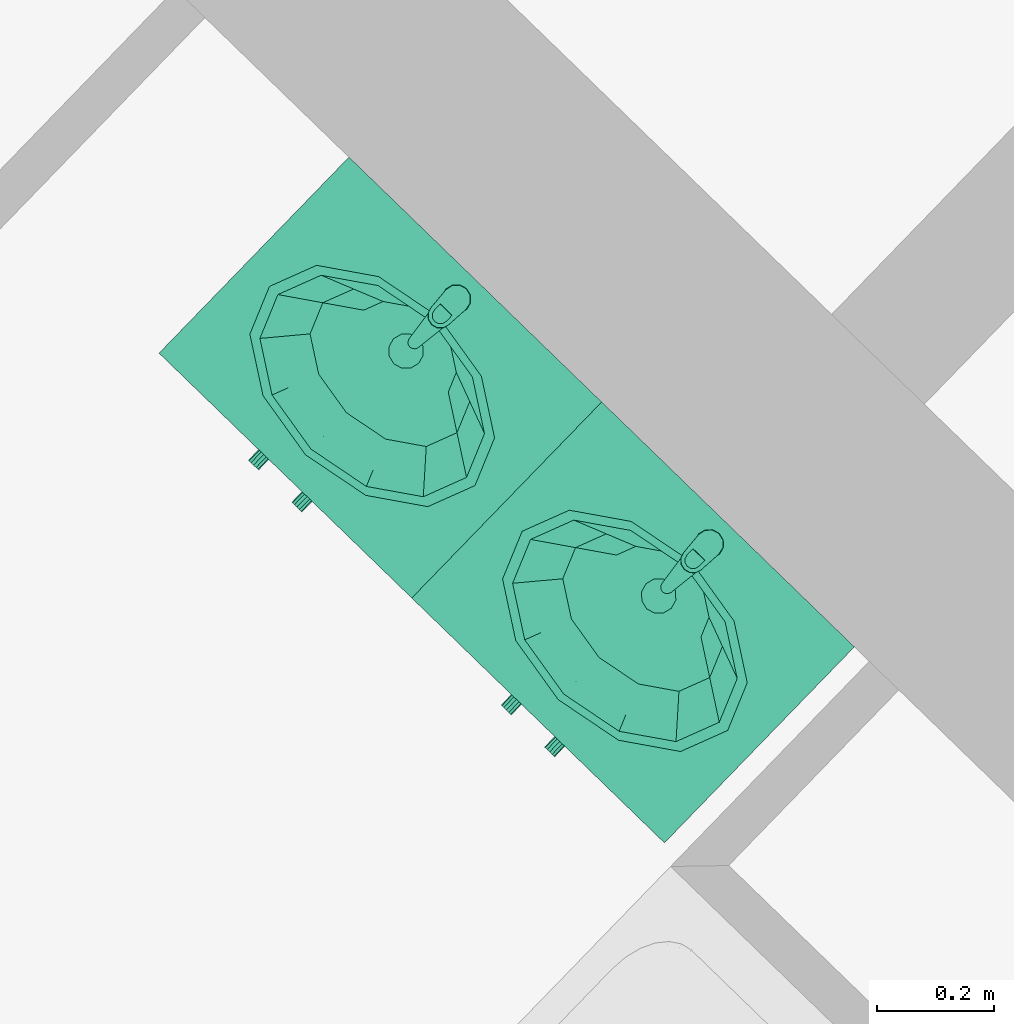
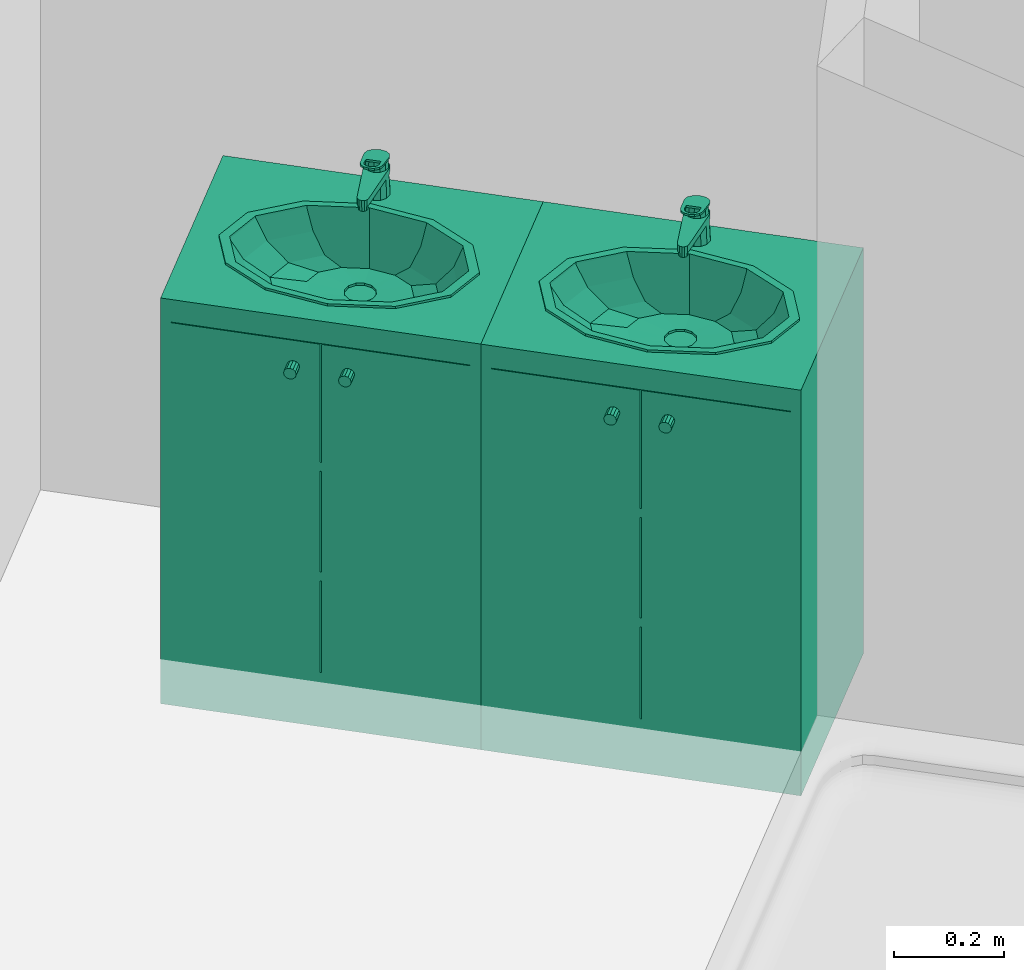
# One storey, part 135 of 195: 2 distribution elements.
"""IFC2X3 building model written with IfcOpenShell, lengths in metres."""

from ifc_helpers import new_model, entity, si_unit, converted_unit, derived_unit, money_unit, direction, frame, origin_with_axes, place, context, subcontext, project, spatial, open_shell, faceted_brep, surface_model, source, transform, mapped, type_object, element, save


model = new_model("IFC2X3")

# Units and contexts
model_context = context("Model", 3, precision=1e-05, world=origin_with_axes(), true_north=direction((0.0, 1.0)))
body_context = subcontext(model_context, "Body", "Model", "MODEL_VIEW")
ifc_project = project(units=[si_unit("LENGTHUNIT", "METRE"), si_unit("AREAUNIT", "SQUARE_METRE"), si_unit("VOLUMEUNIT", "CUBIC_METRE"), converted_unit("PLANEANGLEUNIT", "DEGREE", entity("IfcPlaneAngleMeasure", 0.0174532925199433), si_unit("PLANEANGLEUNIT", "RADIAN"), dimensions=[0, 0, 0, 0, 0, 0, 0]), money_unit("CHF"), converted_unit("TIMEUNIT", "Year", entity("IfcTimeMeasure", 31557600.0), si_unit("TIMEUNIT", "SECOND"), dimensions=[0, 0, 1, 0, 0, 0, 0]), si_unit("MASSUNIT", "GRAM", prefix="KILO"), si_unit("THERMODYNAMICTEMPERATUREUNIT", "DEGREE_CELSIUS"), si_unit("LUMINOUSINTENSITYUNIT", "LUMEN"), si_unit("ENERGYUNIT", "JOULE", prefix="MEGA"), derived_unit("THERMALCONDUCTANCEUNIT", [(si_unit("POWERUNIT", "WATT"), 1), (si_unit("LENGTHUNIT", "METRE"), -1), (si_unit("THERMODYNAMICTEMPERATUREUNIT", "KELVIN"), -1)]), derived_unit("SPECIFICHEATCAPACITYUNIT", [(si_unit("ENERGYUNIT", "JOULE"), 1), (si_unit("MASSUNIT", "GRAM", prefix="KILO"), -1), (si_unit("THERMODYNAMICTEMPERATUREUNIT", "KELVIN"), -1)]), derived_unit("MASSDENSITYUNIT", [(si_unit("MASSUNIT", "GRAM", prefix="KILO"), 1), (si_unit("VOLUMEUNIT", "CUBIC_METRE"), -1)])], contexts=[model_context])

# Site, building, storey
site_placement = place(None, origin_with_axes())
site = spatial("IfcSite", under=ifc_project, at=site_placement, Name="Site", CompositionType="ELEMENT")
building_placement = place(site_placement, origin_with_axes())
building = spatial("IfcBuilding", under=site, at=building_placement, Name="Bâtiment", CompositionType="ELEMENT")
storey_placement = place(building_placement, origin_with_axes())
storey = spatial("IfcBuildingStorey", under=building, at=storey_placement, Name="rdc", CompositionType="ELEMENT", Elevation=0.0)

# Distribution elements
distribution_element_type = type_object("IfcDistributionElementType", Name="Lavabo sur meuble 27")
shared_shape = source(origin_with_axes(), body_context, "Body", "SurfaceModel", [
    faceted_brep([(0.0, 0.0, 0.0), (0.6, 0.0, 0.0), (0.6, 0.0, 0.1), (0.0, 0.0, 0.1), (0.0, 0.4653441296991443, 0.0), (0.6, 0.4653441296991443, 0.0), (0.6, 0.4653441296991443, 0.1), (0.0, 0.4653441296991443, 0.1)], [[[0, 1, 2, 3]], [[0, 4, 5, 1]], [[1, 5, 6, 2]], [[3, 2, 6, 7]], [[4, 0, 3, 7]], [[5, 4, 7, 6]]]),
    faceted_brep([(0.0, 0.0, 0.1), (0.02, 0.0, 0.1), (0.02, 0.0, 0.12), (0.0, 0.0, 0.12), (0.0, 0.4653441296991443, 0.1), (0.02, 0.4653441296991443, 0.1), (0.58, 0.4653441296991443, 0.1), (0.6, 0.4653441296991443, 0.1), (0.6, 0.0, 0.1), (0.58, 0.0, 0.1), (0.58, 0.0, 0.12), (0.6, 0.0, 0.12), (0.6, 0.4653441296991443, 0.12), (0.58, 0.4653441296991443, 0.12), (0.02, 0.4653441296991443, 0.12), (0.0, 0.4653441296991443, 0.12)], [[[0, 1, 2, 3]], [[0, 4, 5, 6, 7, 8, 9, 1]], [[1, 9, 10, 2]], [[3, 2, 10, 11, 12, 13, 14, 15]], [[4, 0, 3, 15]], [[5, 4, 15, 14]], [[6, 5, 14, 13]], [[7, 6, 13, 12]], [[8, 7, 12, 11]], [[9, 8, 11, 10]]]),
    faceted_brep([(0.0, 0.0, 0.12), (0.02, 0.0, 0.12), (0.02, 0.0, 0.85), (0.0, 0.0, 0.85), (0.0, 0.4653441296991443, 0.12), (0.6, 0.4653441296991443, 0.12), (0.6, 0.0, 0.12), (0.58, 0.0, 0.12), (0.58, 0.4453441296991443, 0.12), (0.02, 0.4453441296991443, 0.12), (0.02, 0.4453441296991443, 0.85), (0.58, 0.4453441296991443, 0.85), (0.58, 0.0, 0.85), (0.6, 0.0, 0.85), (0.6, 0.4653441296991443, 0.85), (0.0, 0.4653441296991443, 0.85)], [[[0, 1, 2, 3]], [[0, 4, 5, 6, 7, 8, 9, 1]], [[1, 9, 10, 2]], [[3, 2, 10, 11, 12, 13, 14, 15]], [[4, 0, 3, 15]], [[5, 4, 15, 14]], [[6, 5, 14, 13]], [[7, 6, 13, 12]], [[8, 7, 12, 11]], [[9, 8, 11, 10]]]),
    faceted_brep([(0.58, 0.0, 0.3233333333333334), (0.58, 0.4453441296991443, 0.3233333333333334), (0.58, 0.4453441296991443, 0.3433333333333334), (0.58, 0.0, 0.3433333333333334), (0.02, 0.0, 0.3233333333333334), (0.02, 0.4453441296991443, 0.3233333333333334), (0.02, 0.4453441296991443, 0.3433333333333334), (0.02, 0.0, 0.3433333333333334)], [[[0, 1, 2, 3]], [[0, 4, 5, 1]], [[1, 5, 6, 2]], [[3, 2, 6, 7]], [[4, 0, 3, 7]], [[5, 4, 7, 6]]]),
    faceted_brep([(0.58, 0.0, 0.5666666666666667), (0.58, 0.4453441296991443, 0.5666666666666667), (0.58, 0.4453441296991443, 0.5866666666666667), (0.58, 0.0, 0.5866666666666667), (0.02, 0.0, 0.5666666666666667), (0.02, 0.4453441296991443, 0.5666666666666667), (0.02, 0.4453441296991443, 0.5866666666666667), (0.02, 0.0, 0.5866666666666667)], [[[0, 1, 2, 3]], [[0, 4, 5, 1]], [[1, 5, 6, 2]], [[3, 2, 6, 7]], [[4, 0, 3, 7]], [[5, 4, 7, 6]]]),
    faceted_brep([(0.0, 0.4653441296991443, 0.85), (0.6, 0.4653441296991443, 0.85), (0.6, 0.0, 0.85), (0.0, 0.0, 0.85), (0.4124999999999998, 0.08276825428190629, 0.85), (0.4948557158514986, 0.137672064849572, 0.85), (0.525, 0.2126720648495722, 0.85), (0.4948557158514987, 0.2876720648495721, 0.85), (0.4125, 0.3425758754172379, 0.85), (0.3, 0.3626720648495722, 0.85), (0.1875000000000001, 0.342575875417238, 0.85), (0.1051442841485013, 0.2876720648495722, 0.85), (0.07499999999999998, 0.2126720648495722, 0.85), (0.1051442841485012, 0.1376720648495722, 0.85), (0.1874999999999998, 0.08276825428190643, 0.85), (0.3, 0.06267206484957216, 0.85), (0.0, 0.4653441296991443, 0.9), (0.6, 0.4653441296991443, 0.9), (0.6, 0.0, 0.9), (0.0, 0.0, 0.9), (0.4124999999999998, 0.08276825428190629, 0.9), (0.4948557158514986, 0.137672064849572, 0.9), (0.525, 0.2126720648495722, 0.9), (0.4948557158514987, 0.2876720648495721, 0.9), (0.4125, 0.3425758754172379, 0.9), (0.3, 0.3626720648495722, 0.9), (0.1875000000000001, 0.342575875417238, 0.9), (0.1051442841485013, 0.2876720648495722, 0.9), (0.07499999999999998, 0.2126720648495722, 0.9), (0.1051442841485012, 0.1376720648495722, 0.9), (0.1874999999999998, 0.08276825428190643, 0.9), (0.3, 0.06267206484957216, 0.9)], [[[0, 1, 2, 3], [4, 5, 6, 7, 8, 9, 10, 11, 12, 13, 14, 15]], [[0, 16, 17, 1]], [[1, 17, 18, 2]], [[2, 18, 19, 3]], [[3, 19, 16, 0]], [[20, 21, 5, 4]], [[21, 22, 6, 5]], [[22, 23, 7, 6]], [[23, 24, 8, 7]], [[24, 25, 9, 8]], [[25, 26, 10, 9]], [[26, 27, 11, 10]], [[27, 28, 12, 11]], [[28, 29, 13, 12]], [[29, 30, 14, 13]], [[30, 31, 15, 14]], [[31, 20, 4, 15]], [[18, 17, 16, 19], [24, 23, 22, 21, 20, 31, 30, 29, 28, 27, 26, 25]]]),
    faceted_brep([(0.544, 0.2126720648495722, 0.905), (0.544, 0.2126720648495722, 0.9), (0.511310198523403, 0.2943684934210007, 0.9), (0.511310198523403, 0.2943684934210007, 0.905), (0.5113101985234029, 0.1309756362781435, 0.905), (0.5113101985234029, 0.1309756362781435, 0.9), (0.4219999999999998, 0.07116969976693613, 0.9), (0.3, 0.04927920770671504, 0.9), (0.1779999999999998, 0.07116969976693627, 0.9), (0.08868980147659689, 0.1309756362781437, 0.9), (0.05599999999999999, 0.2126720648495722, 0.9), (0.088689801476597, 0.2943684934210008, 0.9), (0.178, 0.3541744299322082, 0.9), (0.3, 0.3760649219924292, 0.9), (0.422, 0.3541744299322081, 0.9), (0.524, 0.2126720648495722, 0.9), (0.4939896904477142, 0.2876720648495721, 0.9), (0.412, 0.3425758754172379, 0.9), (0.3, 0.3626720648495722, 0.9), (0.1880000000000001, 0.342575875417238, 0.9), (0.1060103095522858, 0.2876720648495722, 0.9), (0.07599999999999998, 0.2126720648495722, 0.9), (0.1060103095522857, 0.1376720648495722, 0.9), (0.1879999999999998, 0.08276825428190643, 0.9), (0.3, 0.06267206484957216, 0.9), (0.4119999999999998, 0.08276825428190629, 0.9), (0.4939896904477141, 0.137672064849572, 0.9), (0.422, 0.3541744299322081, 0.905), (0.3, 0.3760649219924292, 0.905), (0.178, 0.3541744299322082, 0.905), (0.088689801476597, 0.2943684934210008, 0.905), (0.05599999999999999, 0.2126720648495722, 0.905), (0.08868980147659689, 0.1309756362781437, 0.905), (0.1779999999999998, 0.07116969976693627, 0.905), (0.3, 0.04927920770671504, 0.905), (0.4219999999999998, 0.07116969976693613, 0.905), (0.524, 0.2126720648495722, 0.905), (0.4939896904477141, 0.137672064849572, 0.905), (0.4119999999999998, 0.08276825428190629, 0.905), (0.3, 0.06267206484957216, 0.905), (0.1879999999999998, 0.08276825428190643, 0.905), (0.1060103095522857, 0.1376720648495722, 0.905), (0.07599999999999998, 0.2126720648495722, 0.905), (0.1060103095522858, 0.2876720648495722, 0.905), (0.1880000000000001, 0.342575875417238, 0.905), (0.3, 0.3626720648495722, 0.905), (0.412, 0.3425758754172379, 0.905), (0.4939896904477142, 0.2876720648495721, 0.905)], [[[0, 1, 2, 3]], [[4, 5, 1, 0]], [[1, 5, 6, 7, 8, 9, 10, 11, 12, 13, 14, 2], [15, 16, 17, 18, 19, 20, 21, 22, 23, 24, 25, 26]], [[3, 2, 14, 27]], [[0, 3, 27, 28, 29, 30, 31, 32, 33, 34, 35, 4], [36, 37, 38, 39, 40, 41, 42, 43, 44, 45, 46, 47]], [[35, 6, 5, 4]], [[34, 7, 6, 35]], [[33, 8, 7, 34]], [[32, 9, 8, 33]], [[31, 10, 9, 32]], [[30, 11, 10, 31]], [[29, 12, 11, 30]], [[28, 13, 12, 29]], [[27, 14, 13, 28]], [[47, 16, 15, 36]], [[46, 17, 16, 47]], [[45, 18, 17, 46]], [[44, 19, 18, 45]], [[43, 20, 19, 44]], [[42, 21, 20, 43]], [[41, 22, 21, 42]], [[40, 23, 22, 41]], [[39, 24, 23, 40]], [[38, 25, 24, 39]], [[37, 26, 25, 38]], [[36, 15, 26, 37]]]),
    surface_model("IfcShellBasedSurfaceModel", [(0.3, 0.3626720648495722, 0.9), (0.3, 0.3626720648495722, 0.848), (0.4008, 0.3445854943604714, 0.848), (0.412, 0.342575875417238, 0.9), (0.1879999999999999, 0.3425758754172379, 0.9), (0.1991999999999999, 0.3445854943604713, 0.848), (0.4745907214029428, 0.2951720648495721, 0.848), (0.4939896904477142, 0.2876720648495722, 0.9), (0.1060103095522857, 0.2876720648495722, 0.9), (0.1254092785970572, 0.2951720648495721, 0.848), (0.5016, 0.2276720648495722, 0.848), (0.524, 0.2126720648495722, 0.9), (0.07599999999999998, 0.2126720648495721, 0.9), (0.09839999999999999, 0.2276720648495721, 0.848), (0.4745907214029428, 0.1601720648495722, 0.848), (0.4939896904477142, 0.1376720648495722, 0.9), (0.1060103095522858, 0.1376720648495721, 0.9), (0.1254092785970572, 0.1601720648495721, 0.848), (0.4008, 0.1107586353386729, 0.848), (0.412, 0.08276825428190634, 0.9), (0.1879999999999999, 0.08276825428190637, 0.9), (0.1992, 0.110758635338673, 0.848), (0.3, 0.09267206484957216, 0.848), (0.3, 0.06267206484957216, 0.9)], [open_shell([[[0, 1, 2, 3]], [[4, 5, 1, 0]], [[3, 2, 6, 7]], [[8, 9, 5, 4]], [[7, 6, 10, 11]], [[12, 13, 9, 8]], [[11, 10, 14, 15]], [[16, 17, 13, 12]], [[15, 14, 18, 19]], [[20, 21, 17, 16]], [[19, 18, 22, 23]], [[23, 22, 21, 20]]])]),
    surface_model("IfcShellBasedSurfaceModel", [(0.3, 0.3626720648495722, 0.848), (0.3, 0.3626720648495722, 0.7959999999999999), (0.379632, 0.3483836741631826, 0.7959999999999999), (0.4008, 0.3445854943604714, 0.848), (0.1991999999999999, 0.3445854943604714, 0.848), (0.2203679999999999, 0.3483836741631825, 0.7959999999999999), (0.4379266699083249, 0.3093470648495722, 0.7959999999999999), (0.4745907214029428, 0.2951720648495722, 0.848), (0.1254092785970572, 0.2951720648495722, 0.848), (0.1620733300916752, 0.3093470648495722, 0.7959999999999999), (0.459264, 0.2560220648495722, 0.7959999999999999), (0.5016, 0.2276720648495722, 0.848), (0.09839999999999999, 0.2276720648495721, 0.848), (0.140736, 0.2560220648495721, 0.7959999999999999), (0.4379266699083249, 0.2026970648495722, 0.7959999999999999), (0.4745907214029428, 0.1601720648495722, 0.848), (0.1254092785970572, 0.1601720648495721, 0.848), (0.1620733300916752, 0.2026970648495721, 0.7959999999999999), (0.379632, 0.1636604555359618, 0.7959999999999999), (0.4008, 0.1107586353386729, 0.848), (0.1992, 0.110758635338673, 0.848), (0.220368, 0.1636604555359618, 0.7959999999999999), (0.3, 0.1493720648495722, 0.7959999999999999), (0.3, 0.09267206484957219, 0.848)], [open_shell([[[0, 1, 2, 3]], [[4, 5, 1, 0]], [[3, 2, 6, 7]], [[8, 9, 5, 4]], [[7, 6, 10, 11]], [[12, 13, 9, 8]], [[11, 10, 14, 15]], [[16, 17, 13, 12]], [[15, 14, 18, 19]], [[20, 21, 17, 16]], [[19, 18, 22, 23]], [[23, 22, 21, 20]]])]),
    surface_model("IfcShellBasedSurfaceModel", [(0.3, 0.3626720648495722, 0.7959999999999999), (0.3, 0.3626720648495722, 0.7699999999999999), (0.35016816, 0.3536703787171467, 0.7699999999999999), (0.379632, 0.3483836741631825, 0.7959999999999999), (0.2203679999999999, 0.3483836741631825, 0.7959999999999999), (0.2498318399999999, 0.3536703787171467, 0.7699999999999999), (0.3868938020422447, 0.3290773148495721, 0.7699999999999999), (0.4379266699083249, 0.3093470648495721, 0.7959999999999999), (0.1620733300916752, 0.3093470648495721, 0.7959999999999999), (0.2131061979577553, 0.3290773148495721, 0.7699999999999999), (0.40033632, 0.2954825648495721, 0.7699999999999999), (0.459264, 0.2560220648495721, 0.7959999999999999), (0.140736, 0.2560220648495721, 0.7959999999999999), (0.19966368, 0.2954825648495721, 0.7699999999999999), (0.3868938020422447, 0.2618878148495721, 0.7699999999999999), (0.4379266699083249, 0.2026970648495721, 0.7959999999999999), (0.1620733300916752, 0.2026970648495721, 0.7959999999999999), (0.2131061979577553, 0.2618878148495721, 0.7699999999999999), (0.35016816, 0.2372947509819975, 0.7699999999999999), (0.379632, 0.1636604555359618, 0.7959999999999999), (0.220368, 0.1636604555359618, 0.7959999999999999), (0.24983184, 0.2372947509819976, 0.7699999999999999), (0.3, 0.2282930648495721, 0.7699999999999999), (0.3, 0.1493720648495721, 0.7959999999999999)], [open_shell([[[0, 1, 2, 3]], [[4, 5, 1, 0]], [[3, 2, 6, 7]], [[8, 9, 5, 4]], [[7, 6, 10, 11]], [[12, 13, 9, 8]], [[11, 10, 14, 15]], [[16, 17, 13, 12]], [[15, 14, 18, 19]], [[20, 21, 17, 16]], [[19, 18, 22, 23]], [[23, 22, 21, 20]]])]),
    surface_model("IfcShellBasedSurfaceModel", [(0.3, 0.3626720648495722, 0.7699999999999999), (0.315, 0.3214633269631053, 0.7629999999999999), (0.35016816, 0.3536703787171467, 0.7699999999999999), (0.3, 0.3254825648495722, 0.7629999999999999), (0.3259807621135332, 0.3104825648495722, 0.7629999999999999), (0.2498318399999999, 0.3536703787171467, 0.7699999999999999), (0.3868938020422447, 0.3290773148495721, 0.7699999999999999), (0.285, 0.3214633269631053, 0.7629999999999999), (0.33, 0.2954825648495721, 0.7629999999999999), (0.2131061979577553, 0.3290773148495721, 0.7699999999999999), (0.40033632, 0.2954825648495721, 0.7699999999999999), (0.2740192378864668, 0.3104825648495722, 0.7629999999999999), (0.3259807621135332, 0.2804825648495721, 0.7629999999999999), (0.19966368, 0.2954825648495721, 0.7699999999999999), (0.3868938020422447, 0.2618878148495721, 0.7699999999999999), (0.27, 0.2954825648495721, 0.7629999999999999), (0.315, 0.269501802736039, 0.7629999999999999), (0.2131061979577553, 0.2618878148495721, 0.7699999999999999), (0.35016816, 0.2372947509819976, 0.7699999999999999), (0.2740192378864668, 0.2804825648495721, 0.7629999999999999), (0.3, 0.2654825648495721, 0.7629999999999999), (0.24983184, 0.2372947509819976, 0.7699999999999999), (0.3, 0.2282930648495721, 0.7699999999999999), (0.285, 0.269501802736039, 0.7629999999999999)], [open_shell([[[0, 1, 2]], [[0, 3, 1]], [[2, 1, 4]], [[5, 3, 0]], [[2, 4, 6]], [[5, 7, 3]], [[6, 4, 8]], [[9, 7, 5]], [[6, 8, 10]], [[9, 11, 7]], [[10, 8, 12]], [[13, 11, 9]], [[10, 12, 14]], [[13, 15, 11]], [[14, 12, 16]], [[17, 15, 13]], [[14, 16, 18]], [[17, 19, 15]], [[18, 16, 20]], [[21, 19, 17]], [[18, 20, 22]], [[21, 23, 19]], [[22, 20, 23]], [[22, 23, 21]]])]),
    surface_model("IfcShellBasedSurfaceModel", [(0.33, 0.2954825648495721, 0.763), (0.33, 0.2954825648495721, 0.758), (0.3259807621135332, 0.3104825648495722, 0.758), (0.3259807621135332, 0.3104825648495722, 0.763), (0.3259807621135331, 0.2804825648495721, 0.763), (0.3259807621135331, 0.2804825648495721, 0.758), (0.3149999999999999, 0.269501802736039, 0.758), (0.3, 0.2654825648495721, 0.758), (0.285, 0.269501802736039, 0.758), (0.2740192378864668, 0.2804825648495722, 0.758), (0.27, 0.2954825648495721, 0.758), (0.2740192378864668, 0.3104825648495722, 0.758), (0.285, 0.3214633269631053, 0.758), (0.3, 0.3254825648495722, 0.758), (0.315, 0.3214633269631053, 0.758), (0.315, 0.3214633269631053, 0.763), (0.3149999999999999, 0.269501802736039, 0.763), (0.3, 0.2654825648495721, 0.763), (0.285, 0.269501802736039, 0.763), (0.2740192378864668, 0.2804825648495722, 0.763), (0.27, 0.2954825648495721, 0.763), (0.2740192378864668, 0.3104825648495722, 0.763), (0.285, 0.3214633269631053, 0.763), (0.3, 0.3254825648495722, 0.763)], [open_shell([[[0, 1, 2, 3]], [[4, 5, 1, 0]], [[1, 5, 6, 7, 8, 9, 10, 11, 12, 13, 14, 2]], [[3, 2, 14, 15]], [[16, 6, 5, 4]], [[17, 7, 6, 16]], [[18, 8, 7, 17]], [[19, 9, 8, 18]], [[20, 10, 9, 19]], [[21, 11, 10, 20]], [[22, 12, 11, 21]], [[23, 13, 12, 22]], [[15, 14, 13, 23]]])]),
    faceted_brep([(0.3125, 0.4406587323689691, 0.9), (0.3, 0.4440080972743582, 0.9), (0.3, 0.4402100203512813, 0.9759615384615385), (0.310587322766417, 0.4373458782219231, 0.976507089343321), (0.3216506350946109, 0.4315080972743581, 0.9), (0.325, 0.4190080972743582, 0.9), (0.3216506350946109, 0.4065080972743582, 0.9), (0.3125, 0.3973574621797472, 0.9), (0.3, 0.3940080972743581, 0.9), (0.2875, 0.3973574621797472, 0.9), (0.278349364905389, 0.4065080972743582, 0.9), (0.275, 0.4190080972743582, 0.9), (0.278349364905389, 0.4315080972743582, 0.9), (0.2875, 0.4406587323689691, 0.9), (0.289412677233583, 0.4373458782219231, 0.976507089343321), (0.2817264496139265, 0.4295583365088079, 0.9779904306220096), (0.279, 0.4190080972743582, 0.98), (0.2818996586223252, 0.4085578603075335, 0.9819905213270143), (0.2895858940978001, 0.400970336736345, 0.9834357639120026), (0.3, 0.3982062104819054, 0.9839622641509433), (0.3104141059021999, 0.400970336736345, 0.9834357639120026), (0.3181003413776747, 0.4085578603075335, 0.9819905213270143), (0.321, 0.4190080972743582, 0.98), (0.3182735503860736, 0.4295583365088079, 0.9779904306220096)], [[[0, 1, 2, 3]], [[0, 4, 5, 6, 7, 8, 9, 10, 11, 12, 13, 1]], [[1, 13, 14, 2]], [[3, 2, 14, 15, 16, 17, 18, 19, 20, 21, 22, 23]], [[4, 0, 3, 23]], [[5, 4, 23, 22]], [[6, 5, 22, 21]], [[7, 6, 21, 20]], [[8, 7, 20, 19]], [[9, 8, 19, 18]], [[10, 9, 18, 17]], [[11, 10, 17, 16]], [[12, 11, 16, 15]], [[13, 12, 15, 14]]]),
    faceted_brep([(0.309, 0.3160080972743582, 0.935), (0.3077942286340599, 0.3205080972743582, 0.935), (0.3077942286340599, 0.3205080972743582, 0.9450000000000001), (0.309, 0.3160080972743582, 0.9450000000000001), (0.3077942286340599, 0.3115080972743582, 0.935), (0.3045, 0.3082138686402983, 0.935), (0.3, 0.3070080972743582, 0.935), (0.2955, 0.3082138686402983, 0.935), (0.2922057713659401, 0.3115080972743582, 0.935), (0.291, 0.3160080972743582, 0.935), (0.2922057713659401, 0.3205080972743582, 0.935), (0.2955, 0.3238023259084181, 0.935), (0.3, 0.3250080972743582, 0.935), (0.3045, 0.3238023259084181, 0.935), (0.3045, 0.3238023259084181, 0.9450000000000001), (0.3, 0.3250080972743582, 0.9450000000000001), (0.2955, 0.3238023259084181, 0.9450000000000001), (0.2922057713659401, 0.3205080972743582, 0.9450000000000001), (0.291, 0.3160080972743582, 0.9450000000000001), (0.2922057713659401, 0.3115080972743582, 0.9450000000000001), (0.2955, 0.3082138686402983, 0.9450000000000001), (0.3, 0.3070080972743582, 0.9450000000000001), (0.3045, 0.3082138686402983, 0.9450000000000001), (0.3077942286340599, 0.3115080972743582, 0.9450000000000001)], [[[0, 1, 2, 3]], [[0, 4, 5, 6, 7, 8, 9, 10, 11, 12, 13, 1]], [[1, 13, 14, 2]], [[3, 2, 14, 15, 16, 17, 18, 19, 20, 21, 22, 23]], [[4, 0, 3, 23]], [[5, 4, 23, 22]], [[6, 5, 22, 21]], [[7, 6, 21, 20]], [[8, 7, 20, 19]], [[9, 8, 19, 18]], [[10, 9, 18, 17]], [[11, 10, 17, 16]], [[12, 11, 16, 15]], [[13, 12, 15, 14]]]),
    faceted_brep([(0.2871282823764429, 0.439264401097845, 0.9600000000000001), (0.2782721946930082, 0.4292013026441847, 0.9600000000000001), (0.2761946, 0.4159581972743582, 0.9600000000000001), (0.2890880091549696, 0.3146197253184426, 0.9600000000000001), (0.2909711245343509, 0.3097249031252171, 0.9600000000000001), (0.2949066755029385, 0.3062583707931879, 0.9600000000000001), (0.300000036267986, 0.305008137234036, 0.9600000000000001), (0.3050933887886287, 0.3062584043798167, 0.9600000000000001), (0.309028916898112, 0.3097249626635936, 0.9600000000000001), (0.310912, 0.3146197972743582, 0.9600000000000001), (0.3238053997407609, 0.4159581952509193, 0.9600000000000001), (0.3217278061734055, 0.4292013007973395, 0.9600000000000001), (0.3128717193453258, 0.4392644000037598, 0.9600000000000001), (0.300000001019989, 0.44300807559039, 0.9600000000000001), (0.311, 0.4380606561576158, 0.9600000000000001), (0.3190525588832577, 0.4300080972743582, 0.9600000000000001), (0.322, 0.4190080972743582, 0.9600000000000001), (0.3190525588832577, 0.4080080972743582, 0.9600000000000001), (0.3109999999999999, 0.3999555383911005, 0.9600000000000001), (0.3, 0.3970080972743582, 0.9600000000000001), (0.289, 0.3999555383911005, 0.9600000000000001), (0.2809474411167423, 0.4080080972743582, 0.9600000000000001), (0.278, 0.4190080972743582, 0.9600000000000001), (0.2809474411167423, 0.4300080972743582, 0.9600000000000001), (0.289, 0.4380606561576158, 0.9600000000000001), (0.3, 0.4410080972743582, 0.9600000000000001), (0.2782721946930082, 0.4292013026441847, 0.9450000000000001), (0.2871282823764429, 0.439264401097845, 0.9450000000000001), (0.2761946, 0.4159581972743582, 0.9450000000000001), (0.2890880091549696, 0.3146197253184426, 0.9450000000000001), (0.2909711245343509, 0.3097249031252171, 0.9450000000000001), (0.2949066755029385, 0.3062583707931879, 0.9450000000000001), (0.300000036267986, 0.305008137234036, 0.9450000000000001), (0.3050933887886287, 0.3062584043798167, 0.9450000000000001), (0.309028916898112, 0.3097249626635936, 0.9450000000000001), (0.310912, 0.3146197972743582, 0.9450000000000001), (0.3238053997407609, 0.4159581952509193, 0.9450000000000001), (0.3217278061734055, 0.4292013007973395, 0.9450000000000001), (0.3128717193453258, 0.4392644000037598, 0.9450000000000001), (0.300000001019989, 0.44300807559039, 0.9450000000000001), (0.311375, 0.4387101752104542, 0.9450000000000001), (0.319702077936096, 0.4303830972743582, 0.9450000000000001), (0.32275, 0.4190080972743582, 0.9450000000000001), (0.319702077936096, 0.4076330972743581, 0.9450000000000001), (0.311375, 0.3993060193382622, 0.9450000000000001), (0.3, 0.3962580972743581, 0.9450000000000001), (0.288625, 0.3993060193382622, 0.9450000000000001), (0.280297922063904, 0.4076330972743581, 0.9450000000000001), (0.2772499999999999, 0.4190080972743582, 0.9450000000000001), (0.280297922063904, 0.4303830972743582, 0.9450000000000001), (0.288625, 0.4387101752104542, 0.9450000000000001), (0.3, 0.4417580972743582, 0.9450000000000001)], [[[0, 1, 2, 3, 4, 5, 6, 7, 8, 9, 10, 11, 12, 13], [14, 15, 16, 17, 18, 19, 20, 21, 22, 23, 24, 25]], [[26, 1, 0, 27]], [[28, 2, 1, 26]], [[29, 3, 2, 28]], [[30, 4, 3, 29]], [[31, 5, 4, 30]], [[32, 6, 5, 31]], [[33, 7, 6, 32]], [[34, 8, 7, 33]], [[35, 9, 8, 34]], [[36, 10, 9, 35]], [[37, 11, 10, 36]], [[38, 12, 11, 37]], [[39, 13, 12, 38]], [[27, 0, 13, 39]], [[40, 41, 15, 14]], [[41, 42, 16, 15]], [[42, 43, 17, 16]], [[43, 44, 18, 17]], [[44, 45, 19, 18]], [[20, 19, 45, 46]], [[21, 20, 46, 47]], [[22, 21, 47, 48]], [[23, 22, 48, 49]], [[24, 23, 49, 50]], [[50, 51, 25, 24]], [[51, 40, 14, 25]], [[32, 31, 30, 29, 28, 26, 27, 39, 38, 37, 36, 35, 34, 33], [44, 43, 42, 41, 40, 51, 50, 49, 48, 47, 46, 45]]]),
    faceted_brep([(0.323893, 0.4173155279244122, 0.9803223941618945), (0.3212964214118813, 0.4297828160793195, 0.9779476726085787), (0.3212964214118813, 0.4305312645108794, 0.9818770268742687), (0.323893, 0.4180639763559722, 0.9842517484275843), (0.3209459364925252, 0.377171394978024, 0.9879688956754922), (0.317663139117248, 0.3674937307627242, 0.9898122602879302), (0.3100614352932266, 0.3605443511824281, 0.9911359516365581), (0.2999995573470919, 0.3580224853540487, 0.9916163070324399), (0.289937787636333, 0.3605447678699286, 0.9911358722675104), (0.2823363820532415, 0.3674944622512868, 0.9898121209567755), (0.279054, 0.3771722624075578, 0.9879687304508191), (0.2761069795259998, 0.4173158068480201, 0.9803223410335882), (0.2787037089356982, 0.4297830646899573, 0.9779476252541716), (0.2875283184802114, 0.4390992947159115, 0.976173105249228), (0.3000001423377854, 0.4425400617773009, 0.9755177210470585), (0.3124719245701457, 0.4390991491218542, 0.9761731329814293), (0.314, 0.3934672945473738, 0.9848649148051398), (0.286, 0.3934672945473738, 0.9848649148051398), (0.286, 0.37865166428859, 0.9876869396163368), (0.2878756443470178, 0.3717752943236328, 0.9889967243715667), (0.293, 0.3667414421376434, 0.9899555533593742), (0.3, 0.3648989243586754, 0.9903065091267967), (0.307, 0.3667414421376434, 0.9899555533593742), (0.3121243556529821, 0.3717752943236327, 0.9889967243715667), (0.314, 0.37865166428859, 0.9876869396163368), (0.3124719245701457, 0.4398475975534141, 0.9801024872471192), (0.3000001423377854, 0.4432885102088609, 0.9794470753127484), (0.2875283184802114, 0.4398477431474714, 0.9801024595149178), (0.2787037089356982, 0.4305315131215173, 0.9818769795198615), (0.2761069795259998, 0.4180642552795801, 0.9842516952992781), (0.279054, 0.3779207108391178, 0.991898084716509), (0.2823363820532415, 0.3682429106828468, 0.9937414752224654), (0.289937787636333, 0.3612932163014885, 0.9950652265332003), (0.2999995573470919, 0.3587709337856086, 0.9955456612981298), (0.3100614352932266, 0.3612927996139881, 0.995065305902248), (0.317663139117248, 0.3682421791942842, 0.9937416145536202), (0.3209459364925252, 0.377919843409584, 0.9918982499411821), (0.314, 0.3942157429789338, 0.9887942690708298), (0.314, 0.3794001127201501, 0.9916162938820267), (0.3121243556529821, 0.3725237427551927, 0.9929260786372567), (0.307, 0.3674898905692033, 0.9938849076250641), (0.3, 0.3656473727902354, 0.9942358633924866), (0.293, 0.3674898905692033, 0.9938849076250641), (0.2878756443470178, 0.3725237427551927, 0.9929260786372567), (0.286, 0.3794001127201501, 0.9916162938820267), (0.286, 0.3942157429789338, 0.9887942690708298)], [[[0, 1, 2, 3]], [[0, 4, 5, 6, 7, 8, 9, 10, 11, 12, 13, 14, 15, 1], [16, 17, 18, 19, 20, 21, 22, 23, 24]], [[1, 15, 25, 2]], [[3, 2, 25, 26, 27, 28, 29, 30, 31, 32, 33, 34, 35, 36], [37, 38, 39, 40, 41, 42, 43, 44, 45]], [[4, 0, 3, 36]], [[5, 4, 36, 35]], [[6, 5, 35, 34]], [[7, 6, 34, 33]], [[8, 7, 33, 32]], [[9, 8, 32, 31]], [[10, 9, 31, 30]], [[11, 10, 30, 29]], [[12, 11, 29, 28]], [[13, 12, 28, 27]], [[14, 13, 27, 26]], [[15, 14, 26, 25]], [[17, 16, 37, 45]], [[18, 17, 45, 44]], [[19, 18, 44, 43]], [[20, 19, 43, 42]], [[21, 20, 42, 41]], [[22, 21, 41, 40]], [[23, 22, 40, 39]], [[24, 23, 39, 38]], [[16, 24, 38, 37]]]),
    surface_model("IfcShellBasedSurfaceModel", [(0.001500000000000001, 0.0, 0.1015), (0.001500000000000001, 0.0, 0.8485), (0.2985, 0.0, 0.8485), (0.2985, 0.0, 0.1015)], [open_shell([[[0, 1, 2, 3]]])]),
    faceted_brep([(0.2588923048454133, 0.0, 0.7855), (0.2545, 0.0, 0.7811076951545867), (0.2485, 0.0, 0.7795), (0.2425, 0.0, 0.7811076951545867), (0.2381076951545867, 0.0, 0.7855), (0.2365, 0.0, 0.7915), (0.2381076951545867, 0.0, 0.7975), (0.2425, 0.0, 0.8018923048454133), (0.2485, 0.0, 0.8035), (0.2545, 0.0, 0.8018923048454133), (0.2588923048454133, 0.0, 0.7975), (0.2605, 0.0, 0.7915), (0.2588923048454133, -0.025, 0.7855), (0.2545, -0.025, 0.7811076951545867), (0.2485, -0.025, 0.7795), (0.2425, -0.025, 0.7811076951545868), (0.2381076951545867, -0.025, 0.7855), (0.2365, -0.025, 0.7915), (0.2381076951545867, -0.025, 0.7975), (0.2425, -0.025, 0.8018923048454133), (0.2485, -0.025, 0.8035), (0.2545, -0.025, 0.8018923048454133), (0.2588923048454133, -0.025, 0.7975), (0.2605, -0.025, 0.7915)], [[[0, 1, 2, 3, 4, 5, 6, 7, 8, 9, 10, 11]], [[1, 0, 12, 13]], [[2, 1, 13, 14]], [[3, 2, 14, 15]], [[4, 3, 15, 16]], [[5, 4, 16, 17]], [[6, 5, 17, 18]], [[7, 6, 18, 19]], [[8, 7, 19, 20]], [[9, 8, 20, 21]], [[10, 9, 21, 22]], [[11, 10, 22, 23]], [[0, 11, 23, 12]], [[12, 23, 22, 21, 20, 19, 18, 17, 16, 15, 14, 13]]]),
    surface_model("IfcShellBasedSurfaceModel", [(0.5985, 0.0, 0.1015), (0.3015000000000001, 0.0, 0.1015), (0.3015000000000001, 0.0, 0.8485), (0.5985, 0.0, 0.8485)], [open_shell([[[0, 1, 2, 3]]])]),
    faceted_brep([(0.3411076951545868, 0.0, 0.7855), (0.3395, 0.0, 0.7915), (0.3411076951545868, 0.0, 0.7975), (0.3455, 0.0, 0.8018923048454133), (0.3515, 0.0, 0.8035), (0.3575, 0.0, 0.8018923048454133), (0.3618923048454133, 0.0, 0.7975), (0.3635, 0.0, 0.7915), (0.3618923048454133, 0.0, 0.7855), (0.3575, 0.0, 0.7811076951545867), (0.3515, 0.0, 0.7795), (0.3455, 0.0, 0.7811076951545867), (0.3411076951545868, -0.025, 0.7855), (0.3395, -0.025, 0.7915), (0.3411076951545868, -0.025, 0.7975), (0.3455, -0.025, 0.8018923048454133), (0.3515, -0.025, 0.8035), (0.3575, -0.025, 0.8018923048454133), (0.3618923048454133, -0.025, 0.7975), (0.3635, -0.025, 0.7915), (0.3618923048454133, -0.025, 0.7855), (0.3575, -0.025, 0.7811076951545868), (0.3515, -0.025, 0.7795), (0.3455, -0.025, 0.7811076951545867)], [[[0, 1, 2, 3, 4, 5, 6, 7, 8, 9, 10, 11]], [[0, 12, 13, 1]], [[1, 13, 14, 2]], [[2, 14, 15, 3]], [[3, 15, 16, 4]], [[4, 16, 17, 5]], [[5, 17, 18, 6]], [[6, 18, 19, 7]], [[7, 19, 20, 8]], [[8, 20, 21, 9]], [[9, 21, 22, 10]], [[10, 22, 23, 11]], [[11, 23, 12, 0]], [[12, 23, 22, 21, 20, 19, 18, 17, 16, 15, 14, 13]]]),
])
for number, where, z_axis, x_axis, name in (
    (1, (9519.805827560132, -1059.639072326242, 57.59999999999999), (0.0, 0.0, 1.0), (0.7181763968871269, -0.6958610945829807, 0.0), "Obj.-004"),
    (2, (9520.236733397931, -1060.056588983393, 57.59999999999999), (0.0, 0.0, 1.0), (0.7181763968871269, -0.6958610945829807, 0.0), "Obj.-004"),
):
    element("IfcDistributionElement", number, at=place(storey_placement, frame(where, z_axis=z_axis, x_axis=x_axis)), inside=storey, type_object=distribution_element_type, Name=name, context=body_context, shape_type="MappedRepresentation", body=[
        mapped(shared_shape, transform((0.0, 0.0, 0.0))),
    ])

save(model, "model.ifc")
